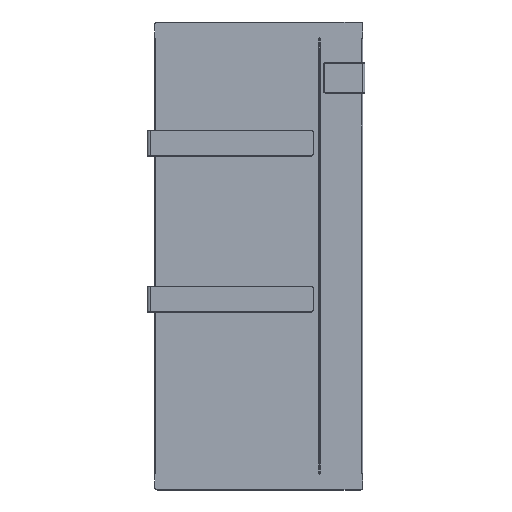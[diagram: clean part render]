
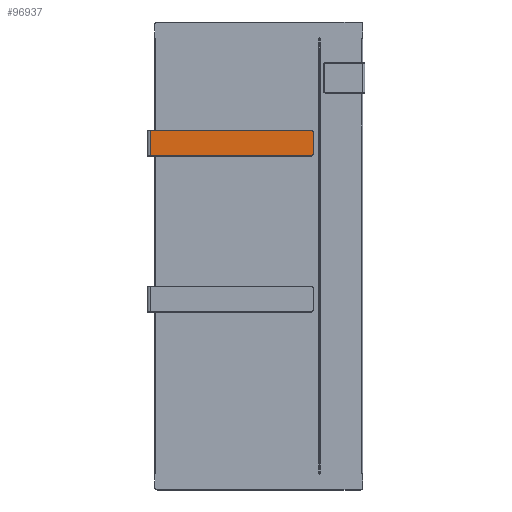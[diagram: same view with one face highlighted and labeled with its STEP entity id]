
A CAD part, top view. The second image highlights one B-rep face of the part: STEP entity #96937.
In plain terms, the highlighted planar face has unit normal (0, 0, 1).
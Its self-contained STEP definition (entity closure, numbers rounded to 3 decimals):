
#96937 = ADVANCED_FACE('',(#96938),#96990,.T.);
#96938 = FACE_BOUND('',#96939,.F.);
#96939 = EDGE_LOOP('',(#96940,#96951,#96959,#96968,#96976,#96984));
#96940 = ORIENTED_EDGE('',*,*,#96941,.T.);
#96941 = EDGE_CURVE('',#96942,#96944,#96946,.T.);
#96942 = VERTEX_POINT('',#96943);
#96943 = CARTESIAN_POINT('',(-6.,24.3,0.));
#96944 = VERTEX_POINT('',#96945);
#96945 = CARTESIAN_POINT('',(-0.7,19.,0.));
#96946 = CIRCLE('',#96947,5.3);
#96947 = AXIS2_PLACEMENT_3D('',#96948,#96949,#96950);
#96948 = CARTESIAN_POINT('',(-6.,19.,0.));
#96949 = DIRECTION('',(0.,0.,-1.));
#96950 = DIRECTION('',(0.,1.,0.));
#96951 = ORIENTED_EDGE('',*,*,#96952,.T.);
#96952 = EDGE_CURVE('',#96944,#96953,#96955,.T.);
#96953 = VERTEX_POINT('',#96954);
#96954 = CARTESIAN_POINT('',(-0.7,-19.,0.));
#96955 = LINE('',#96956,#96957);
#96956 = CARTESIAN_POINT('',(-0.7,19.,0.));
#96957 = VECTOR('',#96958,1.);
#96958 = DIRECTION('',(0.,-1.,0.));
#96959 = ORIENTED_EDGE('',*,*,#96960,.T.);
#96960 = EDGE_CURVE('',#96953,#96961,#96963,.T.);
#96961 = VERTEX_POINT('',#96962);
#96962 = CARTESIAN_POINT('',(-6.,-24.3,0.));
#96963 = CIRCLE('',#96964,5.3);
#96964 = AXIS2_PLACEMENT_3D('',#96965,#96966,#96967);
#96965 = CARTESIAN_POINT('',(-6.,-19.,0.));
#96966 = DIRECTION('',(0.,0.,-1.));
#96967 = DIRECTION('',(1.,0.,0.));
#96968 = ORIENTED_EDGE('',*,*,#96969,.T.);
#96969 = EDGE_CURVE('',#96961,#96970,#96972,.T.);
#96970 = VERTEX_POINT('',#96971);
#96971 = CARTESIAN_POINT('',(-314.,-24.3,0.));
#96972 = LINE('',#96973,#96974);
#96973 = CARTESIAN_POINT('',(-6.,-24.3,0.));
#96974 = VECTOR('',#96975,1.);
#96975 = DIRECTION('',(-1.,0.,0.));
#96976 = ORIENTED_EDGE('',*,*,#96977,.F.);
#96977 = EDGE_CURVE('',#96978,#96970,#96980,.T.);
#96978 = VERTEX_POINT('',#96979);
#96979 = CARTESIAN_POINT('',(-314.,24.3,0.));
#96980 = LINE('',#96981,#96982);
#96981 = CARTESIAN_POINT('',(-314.,24.3,0.));
#96982 = VECTOR('',#96983,1.);
#96983 = DIRECTION('',(0.,-1.,0.));
#96984 = ORIENTED_EDGE('',*,*,#96985,.T.);
#96985 = EDGE_CURVE('',#96978,#96942,#96986,.T.);
#96986 = LINE('',#96987,#96988);
#96987 = CARTESIAN_POINT('',(-314.,24.3,0.));
#96988 = VECTOR('',#96989,1.);
#96989 = DIRECTION('',(1.,0.,0.));
#96990 = PLANE('',#96991);
#96991 = AXIS2_PLACEMENT_3D('',#96992,#96993,#96994);
#96992 = CARTESIAN_POINT('',(-320.,-25.,0.));
#96993 = DIRECTION('',(0.,0.,1.));
#96994 = DIRECTION('',(1.,0.,-0.));
